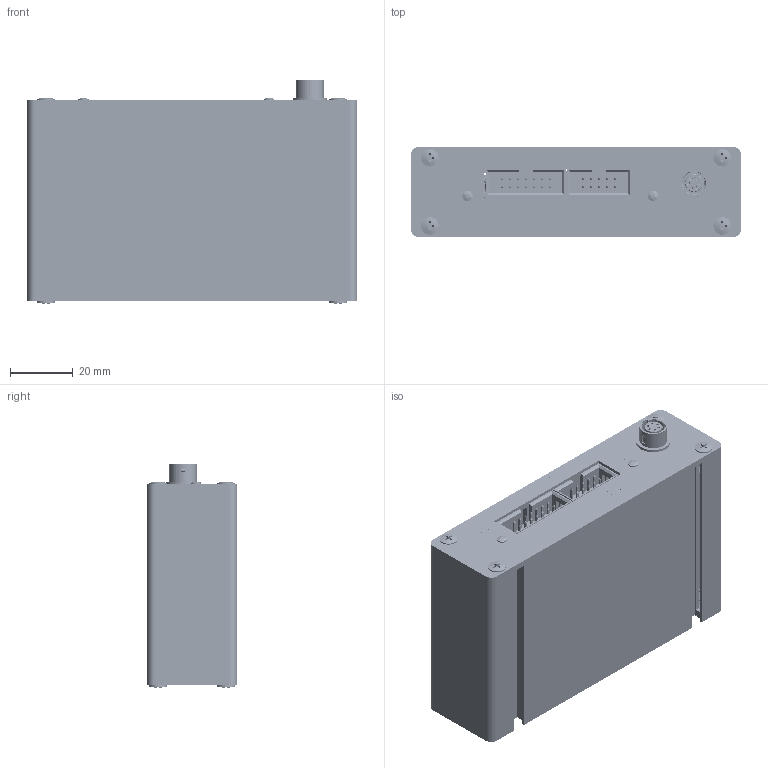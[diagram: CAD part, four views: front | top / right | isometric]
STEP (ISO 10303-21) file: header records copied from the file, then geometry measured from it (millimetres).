
FILE_DESCRIPTION (( 'STEP AP203' ), '1' );
FILE_NAME ('152-706-00_Rev-0-00_draft.step', '2023-09-11T11:06:32', ( '' ), ( '' ), 'SwSTEP 2.0', 'SolidWorks 2022', '' );
FILE_SCHEMA (( 'CONFIG_CONTROL_DESIGN' ));
Length unit declared in the file: millimetre
Products named in the file (35): Board^152-668-00_Rev-0-01_v.6; 132-281-02_132-281-02; M-RJE72-188-6XX1-REVT1^X101_152-668-00_Rev-0-01_v.6; 6120xx21721_PIN_LONGUE^61201421721 (rev1)_X102_152-668-00_Rev-0-01_v.6; X101^152-668-00_Rev-0-01_v.6; 61201021621^61201021721 (rev1)_X401_152-668-00_Rev-0-01_v.6; 132-281-01_01; USB4105-15-A-120^X104_152-668-00_Rev-0-01_v.6; 152-706-00_Rev-0-00_draft; 180-832-00; 61201421721 (rev1)^X102_152-668-00_Rev-0-01_v.6; X103^152-668-00_Rev-0-01_v.6; USB4105-15-A-120_PART1^USB4105-15-A-120_X104_152-668-00_Rev-0-01_v.6; 180-834-00; 54-00127^X103_152-668-00_Rev-0-01_v.6; 61201421621^61201421721 (rev1)_X102_152-668-00_Rev-0-01_v.6; 152-668-00_Rev-0-01_v.6_Envelope; 180-831-00; 6120xx21721_PIN^61201421721 (rev1)_X102_152-668-00_Rev-0-01_v.6; 152-668-00_Envelope; 132-721-00_Einbau; 6120xx21721_PIN-1^61201021721 (rev1)_X401_152-668-00_Rev-0-01_v.6; 132-281-03_132-281-03; 61201021721 (rev1)^X401_152-668-00_Rev-0-01_v.6; 146-786-00; 6120xx21721_PIN_LONGUE-2^61201021721 (rev1)_X401_152-668-00_Rev-0-01_v.6; 146-787-00; 182-466-00; Open CASCADE STEP translator 7.5 2.1.1^Board_152-668-00_Rev-0-01_v.6; 133-814-00_Einbau; USB4105-15-A-120_PART2^USB4105-15-A-120_X104_152-668-00_Rev-0-01_v.6; 180-833-00; X401^152-668-00_Rev-0-01_v.6; X102^152-668-00_Rev-0-01_v.6; X104^152-668-00_Rev-0-01_v.6
Assembly tree (62 placements, depth 6):
  152-706-00_Rev-0-00_draft
    180-831-00
    180-833-00
    180-834-00
    180-832-00
    132-281-03_132-281-03
    132-281-02_132-281-02
    133-814-00_Einbau
      132-281-01_01
      132-721-00_Einbau
    146-787-00  x2
    146-786-00  x8
    152-668-00_Envelope
      152-668-00_Rev-0-01_v.6_Envelope
        Board^152-668-00_Rev-0-01_v.6
          Open CASCADE STEP translator 7.5 2.1.1^Board_152-668-00_Rev-0-01_v.6
        X101^152-668-00_Rev-0-01_v.6
          M-RJE72-188-6XX1-REVT1^X101_152-668-00_Rev-0-01_v.6
        X103^152-668-00_Rev-0-01_v.6
          54-00127^X103_152-668-00_Rev-0-01_v.6
        X104^152-668-00_Rev-0-01_v.6
          USB4105-15-A-120^X104_152-668-00_Rev-0-01_v.6
            USB4105-15-A-120_PART2^USB4105-15-A-120_X104_152-668-00_Rev-0-01_v.6
            USB4105-15-A-120_PART1^USB4105-15-A-120_X104_152-668-00_Rev-0-01_v.6
        X102^152-668-00_Rev-0-01_v.6
          61201421721 (rev1)^X102_152-668-00_Rev-0-01_v.6
            61201421621^61201421721 (rev1)_X102_152-668-00_Rev-0-01_v.6
            6120xx21721_PIN^61201421721 (rev1)_X102_152-668-00_Rev-0-01_v.6  x7
            6120xx21721_PIN_LONGUE^61201421721 (rev1)_X102_152-668-00_Rev-0-01_v.6  x7
        X401^152-668-00_Rev-0-01_v.6
          61201021721 (rev1)^X401_152-668-00_Rev-0-01_v.6
            61201021621^61201021721 (rev1)_X401_152-668-00_Rev-0-01_v.6
            6120xx21721_PIN-1^61201021721 (rev1)_X401_152-668-00_Rev-0-01_v.6  x5
            6120xx21721_PIN_LONGUE-2^61201021721 (rev1)_X401_152-668-00_Rev-0-01_v.6  x5
    182-466-00
Bounding box: 105 x 28.68 x 71.08 mm (x, y, z)
Volume: 80553.9 mm3; surface area: 81527.1 mm2
Topology: 45 solids, 55 shells, 5763 faces, 15383 edges, 9892 vertices
Faces by surface type: plane 3543, cylinder 935, bspline 888, cone 397
Full cylindrical faces by diameter (mm): 0.5 x2, 0.65 x2, 0.702 x6, 0.8 x20, 0.85 x12, 0.92 x1, 0.95 x1, 1 x1, 1.1 x24, 2.459 x1, 2.845 x2, 3 x130, 3.099 x2, 3.302 x2, 3.4 x8, 3.5 x1, 4.2 x1, 4.953 x1, 5.6 x9, 5.7 x1, 6.35 x1, 6.6 x1, 8 x2, 8.85 x1, 11 x2
Entity records: 187972 total; most frequent: CARTESIAN_POINT 67535, ORIENTED_EDGE 25674, DIRECTION 20730, EDGE_CURVE 12837, VECTOR 9436, LINE 9436, VERTEX_POINT 8478, AXIS2_PLACEMENT_3D 5647
